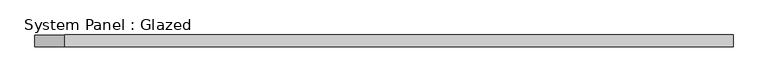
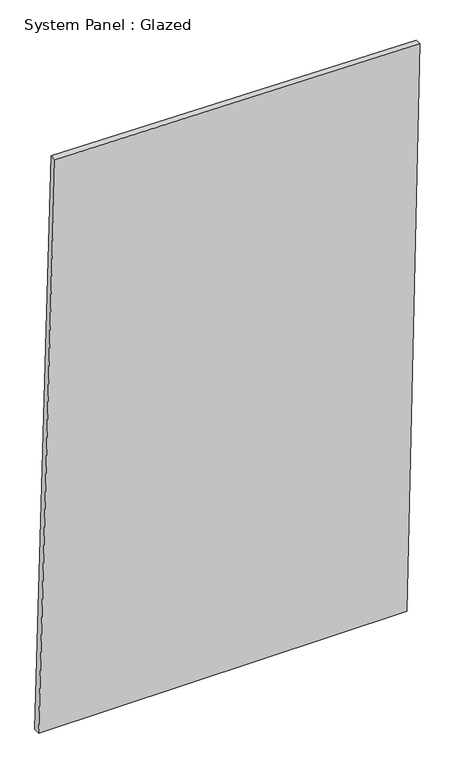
"""IFC4 building model written with IfcOpenShell, lengths in millimetres: plate geometry, System Panel : Glazed."""

from ifc_helpers import new_model, si_unit, frame, origin, place, context, project, spatial, polyline, outline, extrude, source, transform, mapped, element, save


def system_panel_glazed_4526ffdc(model_context):
    return source(origin(), model_context, "Body", "SweptSolid", [
        extrude(outline(polyline([(0.0, -752.6442436), (0.0, 700.634659), (2345.8720831, 752.6442436), (2368.4307992, -687.9937433), (0.0, -752.6442436)])), frame((0.0, -49.5, 0.0), z_axis=(0.0, 1.0, 0.0), x_axis=(0.0, 0.0, 1.0)), (0.0, 0.0, 1.0), 25.0),
    ])


if __name__ == "__main__":
    model = new_model("IFC4")
    model_context = context("Model", 3, world=origin())
    ifc_project = project(units=[si_unit("LENGTHUNIT", "METRE", prefix="MILLI")], contexts=[model_context])
    site = spatial("IfcSite", under=ifc_project)
    building = spatial("IfcBuilding", under=site)
    placement = place(None, origin())
    system_panel_glazed_shape = system_panel_glazed_4526ffdc(model_context)
    element("IfcPlate", 1, ObjectType="System Panel : Glazed", at=placement, inside=building, context=model_context, shape_type="MappedRepresentation", body=[
        mapped(system_panel_glazed_shape, transform((0.0, 0.0, 0.0), x_axis=(1.0, 0.0, 0.0), y_axis=(0.0, 1.0, 0.0), z_axis=(0.0, 0.0, 1.0))),
    ])
    save(model, "model.ifc")
